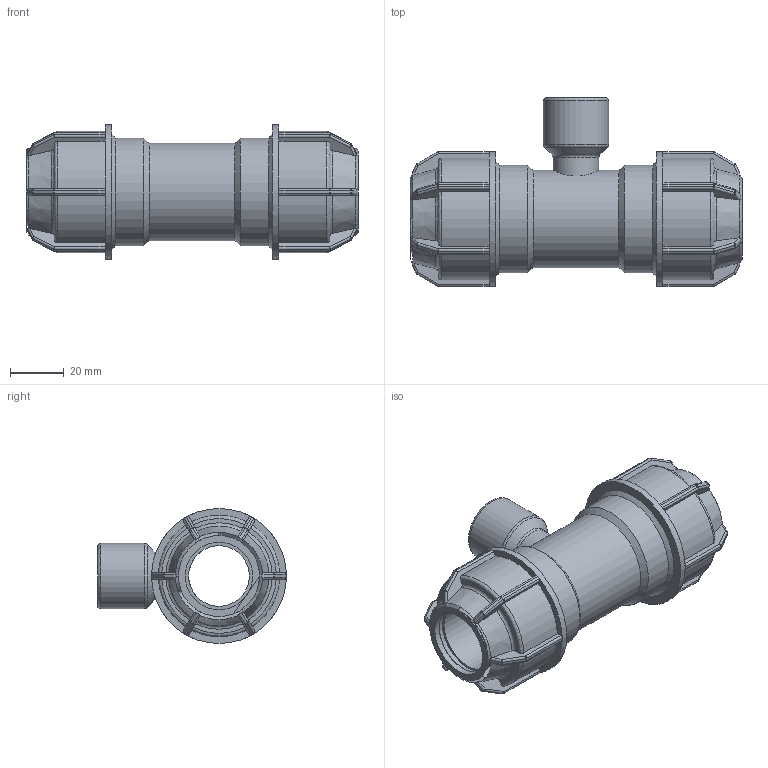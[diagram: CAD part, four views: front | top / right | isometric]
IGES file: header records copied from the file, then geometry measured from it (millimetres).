
Global section: file name: 141400025005.ipt; native system: Autodesk Inventor 2015; preprocessor: unknown; author: KIM; date: 20180416.111603; units: millimetre
Bounding box: 123 x 70 x 50 mm (x, y, z)
Volume: 104659.9 mm3; surface area: 34411.9 mm2
Topology: 1 solids, 1 shells, 412 faces, 1006 edges, 588 vertices
Faces by surface type: plane 194, cylinder 115, sphere 48, revolution 38, cone 17
Full cylindrical faces by diameter (mm): 16.954 x1, 24.22 x1, 36 x1, 40 x2, 50 x2
